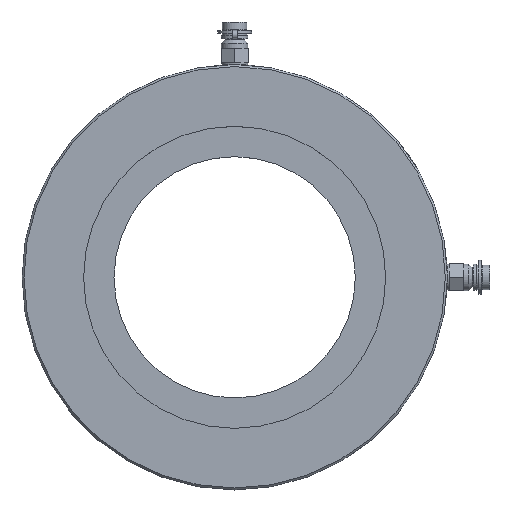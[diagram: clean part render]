
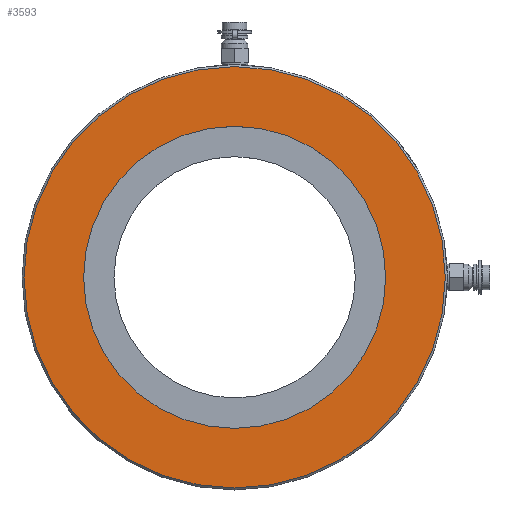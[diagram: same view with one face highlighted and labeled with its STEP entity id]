
A CAD part, top view. The second image highlights one B-rep face of the part: STEP entity #3593.
In plain terms, the highlighted planar face has unit normal (0, 0, 1).
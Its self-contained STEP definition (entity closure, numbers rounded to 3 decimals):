
#3559=CARTESIAN_POINT('',(109.0,0.,9.0));
#3560=VERTEX_POINT('',#3559);
#3561=CARTESIAN_POINT('',(0.0,0.0,9.0));
#3562=DIRECTION('',(0.0,0.0,-1.0));
#3563=DIRECTION('',(-1.0,0.0,0.0));
#3564=AXIS2_PLACEMENT_3D('',#3561,#3562,#3563);
#3565=CIRCLE('',#3564,109.0);
#3566=EDGE_CURVE('',#3560,#3560,#3565,.T.);
#3574=CARTESIAN_POINT('',(0.0,0.0,9.0));
#3575=DIRECTION('',(0.0,0.0,-1.0));
#3576=DIRECTION('',(-1.0,0.0,0.0));
#3577=AXIS2_PLACEMENT_3D('',#3574,#3575,#3576);
#3578=PLANE('',#3577);
#3579=ORIENTED_EDGE('',*,*,#3566,.F.);
#3580=EDGE_LOOP('',(#3579));
#3581=FACE_OUTER_BOUND('',#3580,.T.);
#3582=CARTESIAN_POINT('',(78.15,0.,9.0));
#3583=VERTEX_POINT('',#3582);
#3584=CARTESIAN_POINT('',(0.0,0.0,9.0));
#3585=DIRECTION('',(0.0,0.0,-1.0));
#3586=DIRECTION('',(-1.0,0.0,0.0));
#3587=AXIS2_PLACEMENT_3D('',#3584,#3585,#3586);
#3588=CIRCLE('',#3587,78.15);
#3589=EDGE_CURVE('',#3583,#3583,#3588,.T.);
#3590=ORIENTED_EDGE('',*,*,#3589,.T.);
#3591=EDGE_LOOP('',(#3590));
#3592=FACE_BOUND('',#3591,.T.);
#3593=ADVANCED_FACE('',(#3581,#3592),#3578,.F.);
